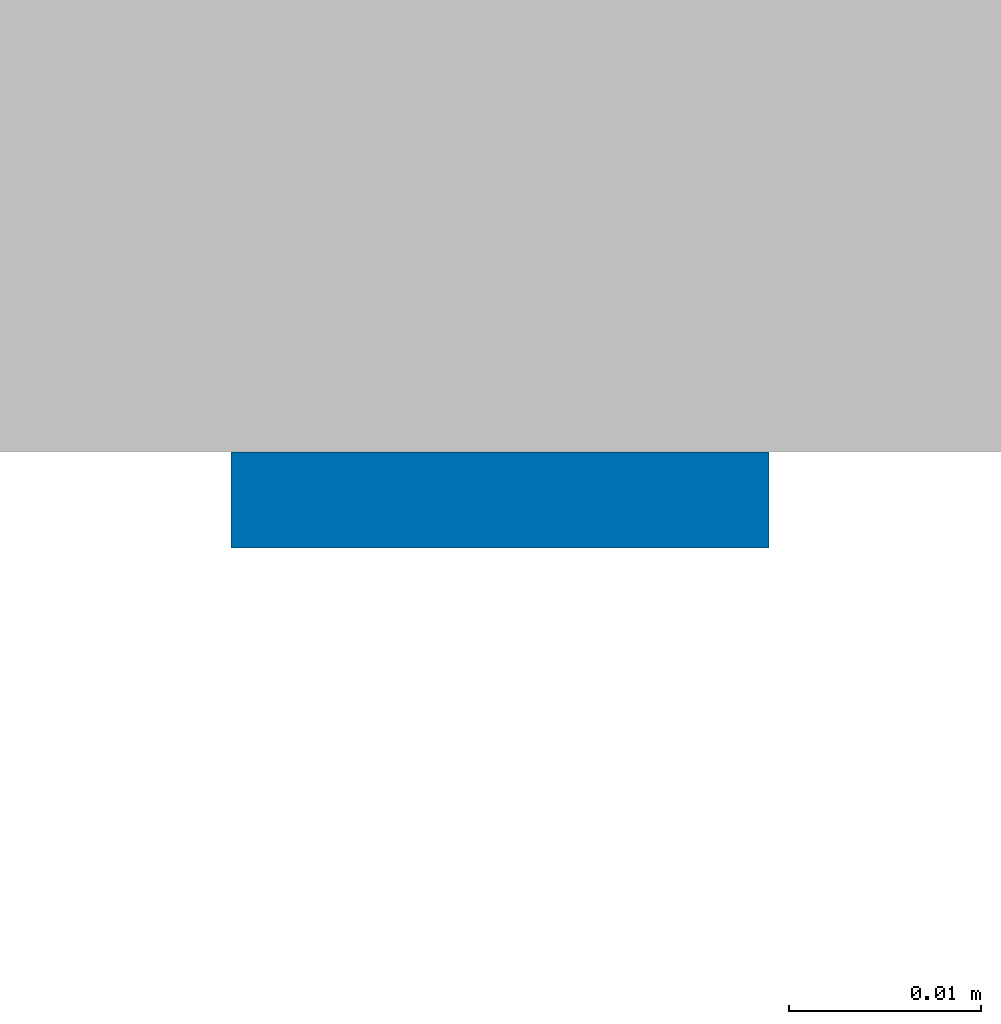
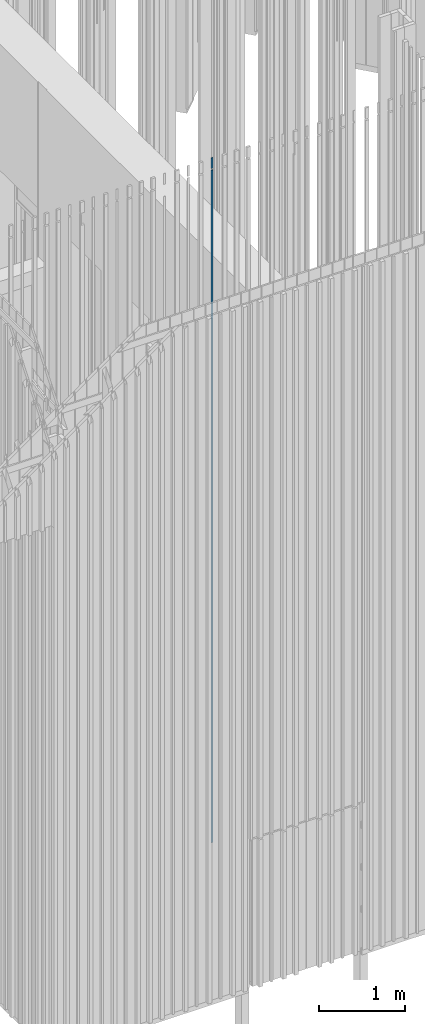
# One storey, part 166 of 390: 1 wall.
"""IFC2X3 building model written with IfcOpenShell, lengths in millimetres."""

from ifc_helpers import new_model, entity, si_unit, converted_unit, derived_unit, money_unit, direction, frame, origin_with_axes, place, context, subcontext, project, spatial, faceted_brep, material, material_list, type_object, element, save


model = new_model("IFC2X3")

# Units and contexts
model_context = context("Model", 3, precision=1e-05, world=origin_with_axes(), true_north=direction((0.0, 1.0)))
body_context = subcontext(model_context, "Body", "Model", "MODEL_VIEW")
ifc_project = project(units=[si_unit("LENGTHUNIT", "METRE", prefix="MILLI"), si_unit("AREAUNIT", "SQUARE_METRE"), si_unit("VOLUMEUNIT", "CUBIC_METRE"), converted_unit("PLANEANGLEUNIT", "DEGREE", entity("IfcPlaneAngleMeasure", 0.0174532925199), si_unit("PLANEANGLEUNIT", "RADIAN"), dimensions=[0, 0, 0, 0, 0, 0, 0]), si_unit("SOLIDANGLEUNIT", "STERADIAN"), money_unit("EUR"), converted_unit("TIMEUNIT", "Year", entity("IfcTimeMeasure", 31556926.0), si_unit("TIMEUNIT", "SECOND"), dimensions=[0, 0, 1, 0, 0, 0, 0]), si_unit("MASSUNIT", "GRAM", prefix="KILO"), si_unit("THERMODYNAMICTEMPERATUREUNIT", "DEGREE_CELSIUS"), si_unit("LUMINOUSINTENSITYUNIT", "LUMEN"), si_unit("ENERGYUNIT", "JOULE", prefix="MEGA"), derived_unit("THERMALCONDUCTANCEUNIT", [(si_unit("POWERUNIT", "WATT"), 1), (si_unit("LENGTHUNIT", "METRE"), -1), (si_unit("THERMODYNAMICTEMPERATUREUNIT", "KELVIN"), -1)]), derived_unit("SPECIFICHEATCAPACITYUNIT", [(si_unit("ENERGYUNIT", "JOULE"), 1), (si_unit("MASSUNIT", "GRAM", prefix="KILO"), -1), (si_unit("THERMODYNAMICTEMPERATUREUNIT", "KELVIN"), -1)]), derived_unit("MASSDENSITYUNIT", [(si_unit("MASSUNIT", "GRAM", prefix="KILO"), 1), (si_unit("VOLUMEUNIT", "CUBIC_METRE"), -1)])], contexts=[model_context])

# Site, building, storey
site_placement = place(None, origin_with_axes())
site = spatial("IfcSite", under=ifc_project, at=site_placement, Name="Site", CompositionType="ELEMENT")
building_placement = place(site_placement, origin_with_axes())
building = spatial("IfcBuilding", under=site, at=building_placement, Name="Building", CompositionType="ELEMENT")
storey_placement = place(building_placement, origin_with_axes())
storey = spatial("IfcBuildingStorey", under=building, at=storey_placement, Name="1 korrus", CompositionType="ELEMENT", Elevation=0.0)

# Wall
ifc_material = material(Name="Site specified")
ifc_material_list = material_list([ifc_material, ifc_material])
wall_type = type_object("IfcWallType", Name="Puitfassaadi ribistik", PredefinedType="NOTDEFINED")
wall_placement = place(storey_placement, frame((136664.000037, 45271.9999217, 100.000000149), z_axis=(0.0, 0.0, 1.0), x_axis=(-1.0, 0.0, 0.0)))
element("IfcWall", 1, at=wall_placement, inside=storey, type_object=wall_type, material=ifc_material_list, Name="Site specified", context=body_context, shape_type="Brep", body=[
    faceted_brep([(14.0, 9.00000962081, -3.12924797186e-06), (13.9999998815, 8.99991330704, 9591.91725957), (-14.0, 8.99991330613, 9591.91725957), (-14.0, 9.0000096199, -3.12924797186e-06), (14.0, 14.0, 0.0), (14.0, 14.0, 9590.85445834), (-14.0, 14.0, 9590.85445834), (-14.0, 14.0, 0.0)], [[[0, 1, 2, 3]], [[4, 5, 1, 0]], [[5, 6, 2, 1]], [[3, 2, 6, 7]], [[0, 3, 7, 4]], [[7, 6, 5, 4]]]),
    faceted_brep([(-14.0, 14.0, 9764.99999985), (-14.0, 14.0, 9612.32361083), (-14.0, 8.99991330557, 9613.38641206), (-14.0, 8.99991330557, 9764.99999985), (14.0, 14.0, 9764.99999985), (14.0, 14.0, 9612.32361083), (14.0, 8.99991330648, 9613.38641206), (14.0, 8.99991330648, 9764.99999985)], [[[0, 1, 2, 3]], [[4, 5, 1, 0]], [[5, 6, 2, 1]], [[3, 2, 6, 7]], [[3, 7, 4, 0]], [[7, 6, 5, 4]]]),
])

save(model, "model.ifc")
